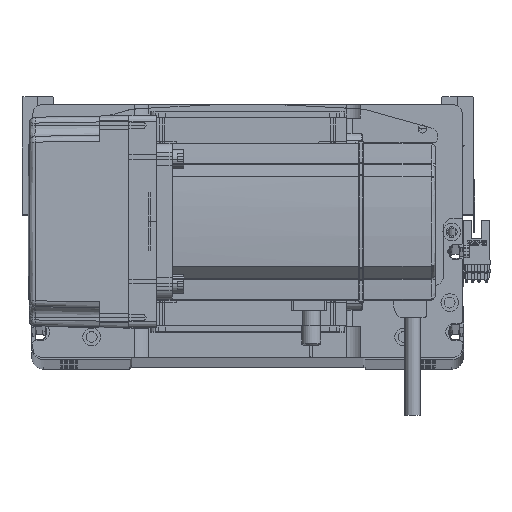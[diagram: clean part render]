
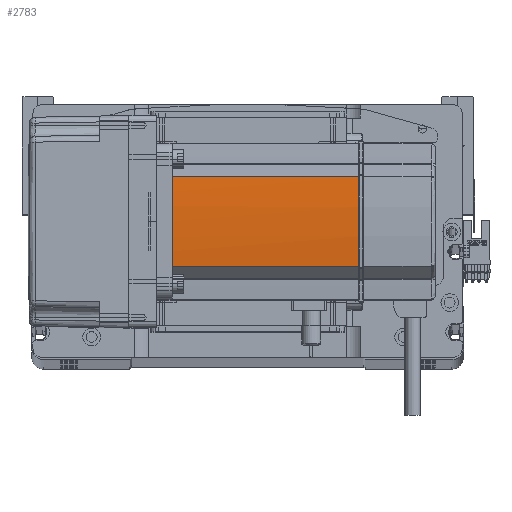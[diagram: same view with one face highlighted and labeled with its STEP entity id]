
A CAD part, top view. The second image highlights one B-rep face of the part: STEP entity #2783.
In plain terms, the highlighted cylindrical face has radius 270 mm (diameter 540 mm), a partial arc.
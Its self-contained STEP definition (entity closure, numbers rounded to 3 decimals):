
#1715 = DIRECTION ( 'NONE',  ( 0., 0., 1. ) ) ;
#1794 = AXIS2_PLACEMENT_3D ( 'NONE', #19693, #55672, #51193 ) ;
#2712 = CIRCLE ( 'NONE', #52216, 270. ) ;
#2783 = ADVANCED_FACE ( 'NONE', ( #14843 ), #4368, .T. ) ;
#4368 = CYLINDRICAL_SURFACE ( 'NONE', #1794, 270. ) ;
#5226 = B_SPLINE_CURVE_WITH_KNOTS ( 'NONE', 3,
 ( #46067, #28711, #28127, #10470 ),
 .UNSPECIFIED., .F., .F.,
 ( 4, 4 ),
 ( 0., 1. ),
 .UNSPECIFIED. ) ;
#5661 = CARTESIAN_POINT ( 'NONE',  ( -230., 0., 134. ) ) ;
#5668 = CARTESIAN_POINT ( 'NONE',  ( 39.042, 22.724, 58. ) ) ;
#6015 = LINE ( 'NONE', #5668, #27066 ) ;
#6384 = DIRECTION ( 'NONE',  ( -1., 0., 0. ) ) ;
#10470 = CARTESIAN_POINT ( 'NONE',  ( 40., 0.127, 134. ) ) ;
#10528 = DIRECTION ( 'NONE',  ( 0., 0., -1. ) ) ;
#12520 = CIRCLE ( 'NONE', #20635, 270. ) ;
#13195 = CARTESIAN_POINT ( 'NONE',  ( 40., -0.127, 134. ) ) ;
#14843 = FACE_OUTER_BOUND ( 'NONE', #31010, .T. ) ;
#15233 = DIRECTION ( 'NONE',  ( -1., 0., 0. ) ) ;
#15899 = EDGE_CURVE ( 'NONE', #23570, #42479, #12520, .T. ) ;
#16322 = EDGE_CURVE ( 'NONE', #33020, #42479, #5226, .T. ) ;
#16946 = CARTESIAN_POINT ( 'NONE',  ( 40., 0.127, 134. ) ) ;
#16981 = ORIENTED_EDGE ( 'NONE', *, *, #54968, .T. ) ;
#17822 = CARTESIAN_POINT ( 'NONE',  ( 39.042, -22.724, 134. ) ) ;
#19693 = CARTESIAN_POINT ( 'NONE',  ( -230., 0., 58. ) ) ;
#20189 = EDGE_CURVE ( 'NONE', #36088, #23570, #6015, .T. ) ;
#20635 = AXIS2_PLACEMENT_3D ( 'NONE', #49044, #22831, #54732 ) ;
#22831 = DIRECTION ( 'NONE',  ( 0., 0., -1. ) ) ;
#23570 = VERTEX_POINT ( 'NONE', #39341 ) ;
#25130 = CARTESIAN_POINT ( 'NONE',  ( 39.042, -22.724, 58. ) ) ;
#25636 = ORIENTED_EDGE ( 'NONE', *, *, #16322, .F. ) ;
#26109 = EDGE_CURVE ( 'NONE', #33020, #46008, #2712, .T. ) ;
#27066 = VECTOR ( 'NONE', #1715, 1000. ) ;
#28127 = CARTESIAN_POINT ( 'NONE',  ( 40., 0.042, 134. ) ) ;
#28711 = CARTESIAN_POINT ( 'NONE',  ( 40., -0.042, 134. ) ) ;
#28782 = LINE ( 'NONE', #25130, #52715 ) ;
#28805 = VERTEX_POINT ( 'NONE', #46088 ) ;
#29301 = ORIENTED_EDGE ( 'NONE', *, *, #56389, .F. ) ;
#29790 = AXIS2_PLACEMENT_3D ( 'NONE', #46705, #10528, #6384 ) ;
#31010 = EDGE_LOOP ( 'NONE', ( #16981, #29301, #46058, #37377, #25636, #41700 ) ) ;
#31395 = CARTESIAN_POINT ( 'NONE',  ( 39.042, 22.724, 39. ) ) ;
#33020 = VERTEX_POINT ( 'NONE', #13195 ) ;
#34229 = DIRECTION ( 'NONE',  ( 0., 0., -1. ) ) ;
#36088 = VERTEX_POINT ( 'NONE', #31395 ) ;
#36437 = CIRCLE ( 'NONE', #29790, 270. ) ;
#37377 = ORIENTED_EDGE ( 'NONE', *, *, #15899, .T. ) ;
#39341 = CARTESIAN_POINT ( 'NONE',  ( 39.042, 22.724, 134. ) ) ;
#41700 = ORIENTED_EDGE ( 'NONE', *, *, #26109, .T. ) ;
#42479 = VERTEX_POINT ( 'NONE', #16946 ) ;
#46008 = VERTEX_POINT ( 'NONE', #17822 ) ;
#46058 = ORIENTED_EDGE ( 'NONE', *, *, #20189, .T. ) ;
#46067 = CARTESIAN_POINT ( 'NONE',  ( 40., -0.127, 134. ) ) ;
#46088 = CARTESIAN_POINT ( 'NONE',  ( 39.042, -22.724, 39. ) ) ;
#46705 = CARTESIAN_POINT ( 'NONE',  ( -230., 0., 39. ) ) ;
#49044 = CARTESIAN_POINT ( 'NONE',  ( -230., 0., 134. ) ) ;
#51193 = DIRECTION ( 'NONE',  ( -1., 0., 0. ) ) ;
#52216 = AXIS2_PLACEMENT_3D ( 'NONE', #5661, #55323, #15233 ) ;
#52715 = VECTOR ( 'NONE', #34229, 1000. ) ;
#54732 = DIRECTION ( 'NONE',  ( -1., 0., 0. ) ) ;
#54968 = EDGE_CURVE ( 'NONE', #46008, #28805, #28782, .T. ) ;
#55323 = DIRECTION ( 'NONE',  ( 0., 0., -1. ) ) ;
#55672 = DIRECTION ( 'NONE',  ( 0., 0., -1. ) ) ;
#56389 = EDGE_CURVE ( 'NONE', #36088, #28805, #36437, .T. ) ;
